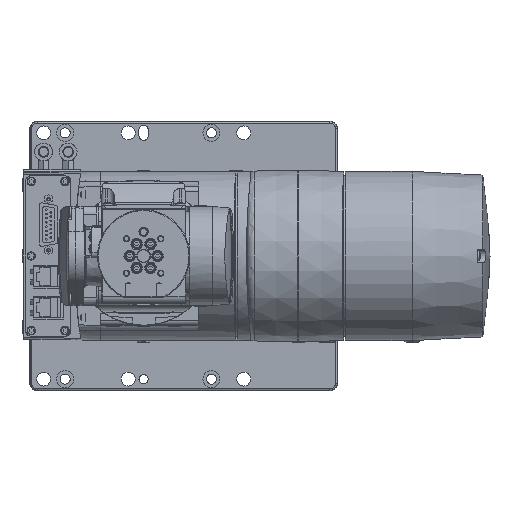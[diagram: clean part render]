
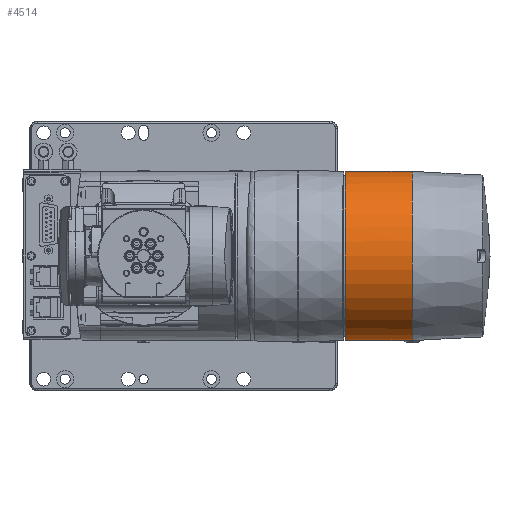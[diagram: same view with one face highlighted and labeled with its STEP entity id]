
A CAD part, front view. The second image highlights one B-rep face of the part: STEP entity #4514.
In plain terms, the highlighted cylindrical face has radius 55 mm (diameter 110 mm), a partial arc.
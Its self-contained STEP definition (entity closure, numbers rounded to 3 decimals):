
#4514 = ADVANCED_FACE( '', ( #11934 ), #11935, .T. );
#11934 = FACE_OUTER_BOUND( '', #22980, .T. );
#11935 = CYLINDRICAL_SURFACE( '', #22981, 55. );
#22980 = EDGE_LOOP( '', ( #36715, #36716, #36717, #36718, #36719 ) );
#22981 = AXIS2_PLACEMENT_3D( '', #36720, #36721, #36722 );
#36715 = ORIENTED_EDGE( '', *, *, #64124, .F. );
#36716 = ORIENTED_EDGE( '', *, *, #64125, .T. );
#36717 = ORIENTED_EDGE( '', *, *, #64126, .T. );
#36718 = ORIENTED_EDGE( '', *, *, #64127, .F. );
#36719 = ORIENTED_EDGE( '', *, *, #64128, .T. );
#36720 = CARTESIAN_POINT( '', ( -129.1, -330.4, 0. ) );
#36721 = DIRECTION( '', ( -1., 0., 0. ) );
#36722 = DIRECTION( '', ( 0., 0., -1. ) );
#64124 = EDGE_CURVE( '', #77330, #77331, #77332, .T. );
#64125 = EDGE_CURVE( '', #77330, #77333, #77334, .T. );
#64126 = EDGE_CURVE( '', #77333, #77335, #77336, .T. );
#64127 = EDGE_CURVE( '', #77337, #77335, #77338, .T. );
#64128 = EDGE_CURVE( '', #77337, #77331, #77339, .T. );
#77330 = VERTEX_POINT( '', #97136 );
#77331 = VERTEX_POINT( '', #97137 );
#77332 = B_SPLINE_CURVE_WITH_KNOTS( '', 3, ( #97138, #97139, #97140, #97141, #97142, #97143, #97144, #97145, #97146, #97147 ), .UNSPECIFIED., .F., .F., ( 4, 2, 2, 2, 4 ), ( 0.001, 0.003, 0.004, 0.006, 0.007 ), .UNSPECIFIED. );
#77333 = VERTEX_POINT( '', #97148 );
#77334 = CIRCLE( '', #97149, 55. );
#77335 = VERTEX_POINT( '', #97150 );
#77336 = B_SPLINE_CURVE_WITH_KNOTS( '', 3, ( #97151, #97152, #97153, #97154, #97155, #97156, #97157, #97158 ), .UNSPECIFIED., .F., .F., ( 4, 2, 2, 4 ), ( 0., 0.011, 0.022, 0.044 ), .UNSPECIFIED. );
#77337 = VERTEX_POINT( '', #97159 );
#77338 = CIRCLE( '', #97160, 55. );
#77339 = B_SPLINE_CURVE_WITH_KNOTS( '', 3, ( #97161, #97162, #97163, #97164, #97165, #97166 ), .UNSPECIFIED., .F., .F., ( 4, 2, 4 ), ( 0., 0.019, 0.039 ), .UNSPECIFIED. );
#97136 = CARTESIAN_POINT( '', ( -174.5, -313.169, 52.231 ) );
#97137 = CARTESIAN_POINT( '', ( -169.116, -311.69, 51.72 ) );
#97138 = CARTESIAN_POINT( '', ( -174.5, -313.169, 52.231 ) );
#97139 = CARTESIAN_POINT( '', ( -174.029, -313.169, 52.231 ) );
#97140 = CARTESIAN_POINT( '', ( -173.559, -313.137, 52.221 ) );
#97141 = CARTESIAN_POINT( '', ( -172.62, -313.008, 52.178 ) );
#97142 = CARTESIAN_POINT( '', ( -172.152, -312.91, 52.145 ) );
#97143 = CARTESIAN_POINT( '', ( -171.245, -312.658, 52.06 ) );
#97144 = CARTESIAN_POINT( '', ( -170.804, -312.502, 52.007 ) );
#97145 = CARTESIAN_POINT( '', ( -169.942, -312.137, 51.88 ) );
#97146 = CARTESIAN_POINT( '', ( -169.52, -311.925, 51.805 ) );
#97147 = CARTESIAN_POINT( '', ( -169.116, -311.69, 51.72 ) );
#97148 = CARTESIAN_POINT( '', ( -174.5, -312.86, -52.128 ) );
#97149 = AXIS2_PLACEMENT_3D( '', #120097, #120098, #120099 );
#97150 = CARTESIAN_POINT( '', ( -131.1, -304.96, -48.763 ) );
#97151 = CARTESIAN_POINT( '', ( -174.5, -312.86, -52.128 ) );
#97152 = CARTESIAN_POINT( '', ( -170.909, -312.055, -51.857 ) );
#97153 = CARTESIAN_POINT( '', ( -167.31, -311.3, -51.583 ) );
#97154 = CARTESIAN_POINT( '', ( -160.097, -309.866, -51.029 ) );
#97155 = CARTESIAN_POINT( '', ( -156.484, -309.187, -50.749 ) );
#97156 = CARTESIAN_POINT( '', ( -145.63, -307.239, -49.906 ) );
#97157 = CARTESIAN_POINT( '', ( -138.372, -306.059, -49.336 ) );
#97158 = CARTESIAN_POINT( '', ( -131.1, -304.96, -48.763 ) );
#97159 = CARTESIAN_POINT( '', ( -131.1, -304.96, 48.763 ) );
#97160 = AXIS2_PLACEMENT_3D( '', #120100, #120101, #120102 );
#97161 = CARTESIAN_POINT( '', ( -131.1, -304.96, 48.763 ) );
#97162 = CARTESIAN_POINT( '', ( -137.464, -305.922, 49.265 ) );
#97163 = CARTESIAN_POINT( '', ( -143.818, -306.946, 49.763 ) );
#97164 = CARTESIAN_POINT( '', ( -156.493, -309.168, 50.751 ) );
#97165 = CARTESIAN_POINT( '', ( -162.816, -310.363, 51.24 ) );
#97166 = CARTESIAN_POINT( '', ( -169.116, -311.69, 51.72 ) );
#120097 = CARTESIAN_POINT( '', ( -174.5, -330.4, 0. ) );
#120098 = DIRECTION( '', ( 1., 0., 0. ) );
#120099 = DIRECTION( '', ( 0., 0., -1. ) );
#120100 = CARTESIAN_POINT( '', ( -131.1, -330.4, 0. ) );
#120101 = DIRECTION( '', ( 1., 0., 0. ) );
#120102 = DIRECTION( '', ( 0., 0., -1. ) );
